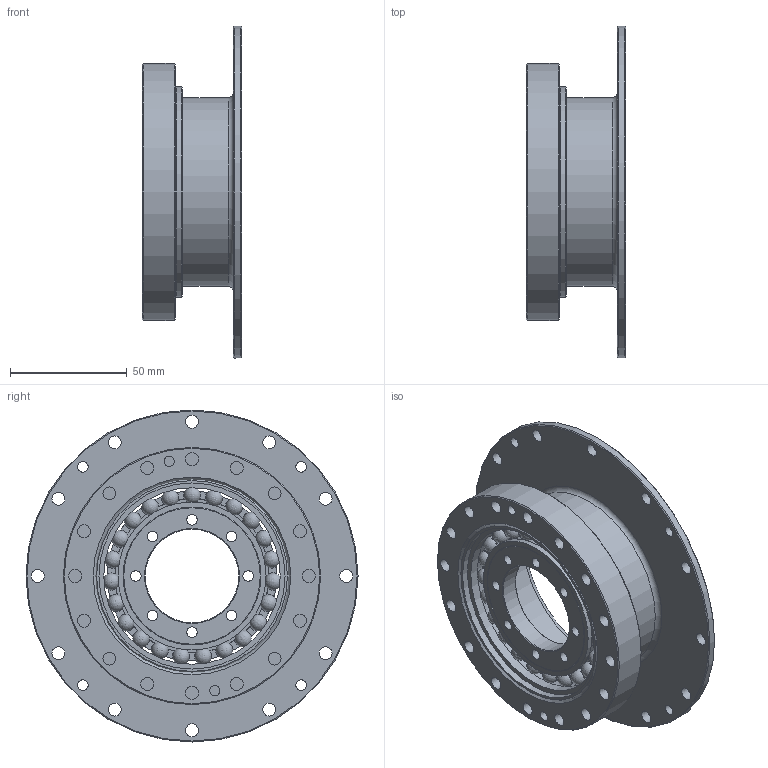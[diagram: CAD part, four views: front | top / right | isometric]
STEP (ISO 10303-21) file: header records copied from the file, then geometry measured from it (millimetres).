
FILE_DESCRIPTION(/* description */ (''),/* implementation_level */ '2;1');
FILE_NAME(/* name */ 'Getriebeset_HTG_81_HS.stp',/* time_stamp */ '2026-03-09T11:00:10+01:00',/* author */ (''),/* organization */ (''),/* preprocessor_version */ 'ST-DEVELOPER v19.4',/* originating_system */ 'SIEMENS PLM Software NX2212.9120',/* authorisation */ '');
FILE_SCHEMA (('AUTOMOTIVE_DESIGN { 1 0 10303 214 3 1 1 1 }'));
Length unit declared in the file: millimetre
Products named in the file (1): Getriebeset_HTG_81_HS
Bounding box: 42.4 x 142 x 142 mm (x, y, z)
Volume: 118395.1 mm3; surface area: 92411 mm2
Topology: 29 solids, 29 shells, 229 faces, 669 edges, 457 vertices
Faces by surface type: cylinder 99, plane 59, sphere 27, bspline 21, cone 15, torus 8
Full cylindrical faces by diameter (mm): 4.3 x2, 4.5 x12, 5.5 x28, 40 x1, 55 x1, 59 x2, 63 x1, 63.3 x2, 69.508 x1, 75.5 x2, 79.6 x2, 80.74 x1, 81.5 x1, 83.21 x1, 90 x1, 110 x1, 114 x1, 142 x1
Entity records: 8634 total; most frequent: CARTESIAN_POINT 3346, DIRECTION 992, ORIENTED_EDGE 906, AXIS2_PLACEMENT_3D 458, EDGE_CURVE 453, EDGE_LOOP 393, VERTEX_POINT 373, FACE_BOUND 313
